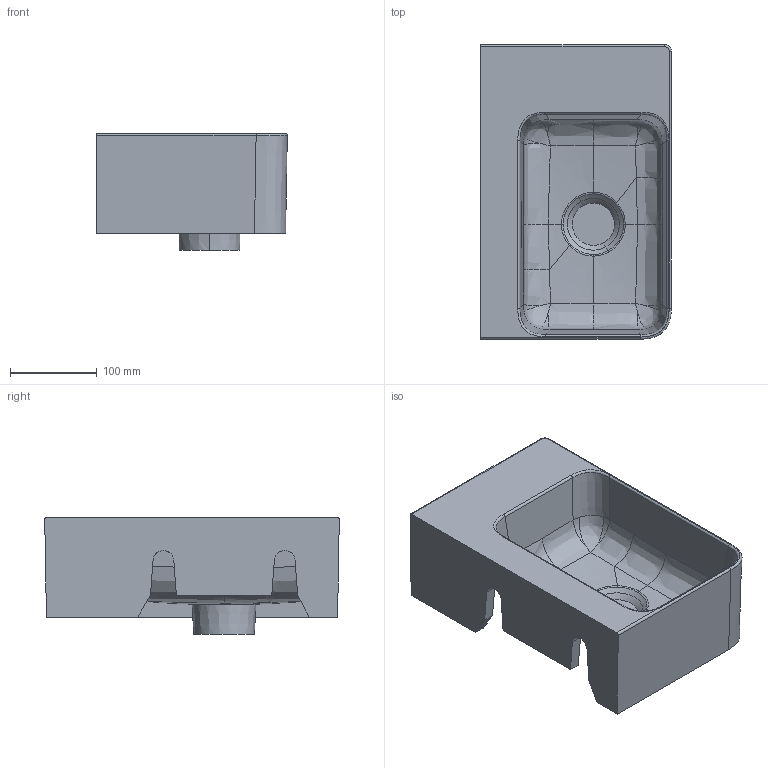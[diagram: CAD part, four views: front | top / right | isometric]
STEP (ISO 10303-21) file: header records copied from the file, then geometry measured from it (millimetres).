
FILE_DESCRIPTION(('CATIA V5 STEP Exchange'),'2;1');
FILE_NAME('H:\Keramik Laufen and Similor\TPM-K\I_007 TPM\CAD\1.BIM-Daten\VAL\15280\815280BIM.stp','2018-12-05T14:30:14+00:00',('none'),('none'),'CATIA Version 5-6 Release 2016 SP4','CATIA V5 STEP AP203','none');
FILE_SCHEMA(('CONFIG_CONTROL_DESIGN'));
Products named in the file (1): 815280BIM
Bounding box: 219.96 x 339.91 x 135 mm (x, y, z)
Volume: 2434089.2 mm3; surface area: 418181.1 mm2
Topology: 1 solids, 1 shells, 136 faces, 358 edges, 228 vertices
Faces by surface type: bspline 90, plane 29, cylinder 11, cone 4, torus 2
Entity records: 36523 total; most frequent: CARTESIAN_POINT 33975, ORIENTED_EDGE 712, EDGE_CURVE 356, B_SPLINE_CURVE_WITH_KNOTS 261, VERTEX_POINT 225, DIRECTION 174, EDGE_LOOP 139, ADVANCED_FACE 136
